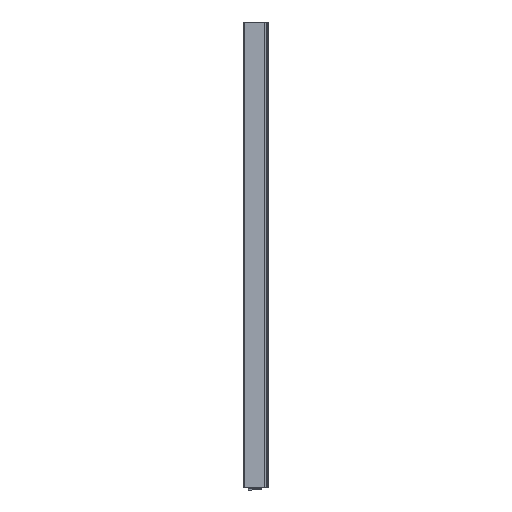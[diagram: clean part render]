
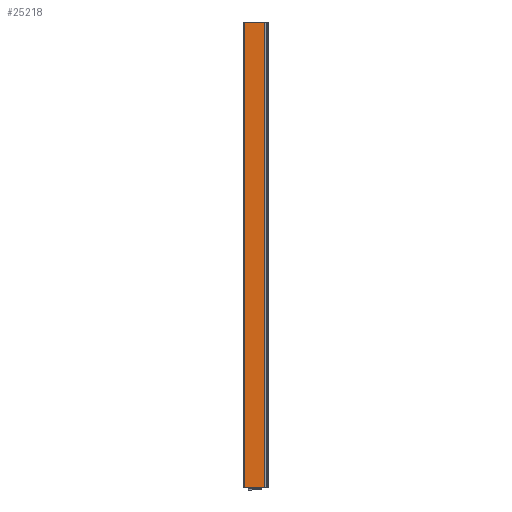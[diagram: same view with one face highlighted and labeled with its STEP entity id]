
A CAD part, left-side view. The second image highlights one B-rep face of the part: STEP entity #25218.
In plain terms, the highlighted planar face has unit normal (-1, 0, 0).
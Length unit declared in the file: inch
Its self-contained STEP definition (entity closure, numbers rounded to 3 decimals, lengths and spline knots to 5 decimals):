
#102 = FACE_OUTER_BOUND ( 'NONE', #16142, .T. ) ;
#563 = VERTEX_POINT ( 'NONE', #4671 ) ;
#3031 = EDGE_CURVE ( 'NONE', #14449, #10368, #15707, .T. ) ;
#3370 = LINE ( 'NONE', #18610, #13387 ) ;
#3908 = EDGE_CURVE ( 'NONE', #563, #14449, #16299, .T. ) ;
#4671 = CARTESIAN_POINT ( 'NONE',  ( 1.70209, 2.3391, 12. ) ) ;
#5167 = CARTESIAN_POINT ( 'NONE',  ( 1.70209, 2.3391, 12. ) ) ;
#5994 = EDGE_CURVE ( 'NONE', #563, #8173, #15975, .T. ) ;
#6968 = ORIENTED_EDGE ( 'NONE', *, *, #13660, .T. ) ;
#7246 = DIRECTION ( 'NONE',  ( 0., 0., -1. ) ) ;
#7394 = AXIS2_PLACEMENT_3D ( 'NONE', #15075, #19710, #13229 ) ;
#7607 = ORIENTED_EDGE ( 'NONE', *, *, #5994, .T. ) ;
#8173 = VERTEX_POINT ( 'NONE', #22231 ) ;
#10368 = VERTEX_POINT ( 'NONE', #23953 ) ;
#11687 = DIRECTION ( 'NONE',  ( 0., -1., 0. ) ) ;
#13229 = DIRECTION ( 'NONE',  ( 0., 0., -1. ) ) ;
#13387 = VECTOR ( 'NONE', #11687, 39.37008 ) ;
#13660 = EDGE_CURVE ( 'NONE', #8173, #10368, #3370, .T. ) ;
#14449 = VERTEX_POINT ( 'NONE', #24724 ) ;
#15075 = CARTESIAN_POINT ( 'NONE',  ( 1.70209, 2.3391, 12. ) ) ;
#15707 = LINE ( 'NONE', #26832, #17530 ) ;
#15975 = LINE ( 'NONE', #24407, #19850 ) ;
#16142 = EDGE_LOOP ( 'NONE', ( #6968, #22093, #22843, #7607 ) ) ;
#16299 = LINE ( 'NONE', #5167, #20076 ) ;
#17530 = VECTOR ( 'NONE', #7246, 39.37008 ) ;
#18610 = CARTESIAN_POINT ( 'NONE',  ( 1.70209, 2.3391, -12. ) ) ;
#19710 = DIRECTION ( 'NONE',  ( 1., 0., 0. ) ) ;
#19850 = VECTOR ( 'NONE', #24546, 39.37008 ) ;
#20076 = VECTOR ( 'NONE', #22366, 39.37008 ) ;
#21969 = PLANE ( 'NONE',  #7394 ) ;
#22093 = ORIENTED_EDGE ( 'NONE', *, *, #3031, .F. ) ;
#22231 = CARTESIAN_POINT ( 'NONE',  ( 1.70209, 2.3391, -12. ) ) ;
#22366 = DIRECTION ( 'NONE',  ( 0., -1., 0. ) ) ;
#22843 = ORIENTED_EDGE ( 'NONE', *, *, #3908, .F. ) ;
#23953 = CARTESIAN_POINT ( 'NONE',  ( 1.70209, 1.28398, -12. ) ) ;
#24407 = CARTESIAN_POINT ( 'NONE',  ( 1.70209, 2.3391, 12. ) ) ;
#24546 = DIRECTION ( 'NONE',  ( 0., 0., -1. ) ) ;
#24724 = CARTESIAN_POINT ( 'NONE',  ( 1.70209, 1.28398, 12. ) ) ;
#25218 = ADVANCED_FACE ( 'NONE', ( #102 ), #21969, .F. ) ;
#26832 = CARTESIAN_POINT ( 'NONE',  ( 1.70209, 1.28398, 12. ) ) ;
